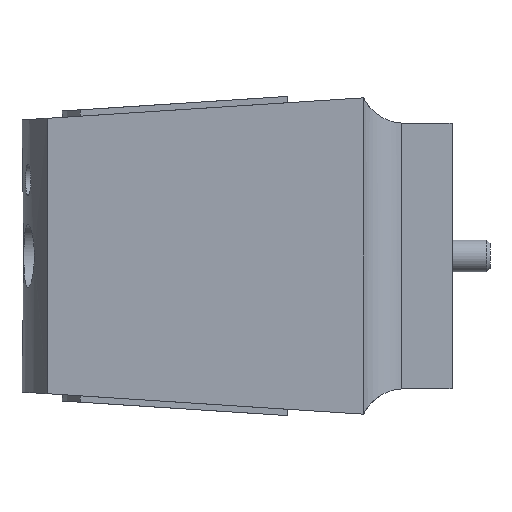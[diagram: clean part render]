
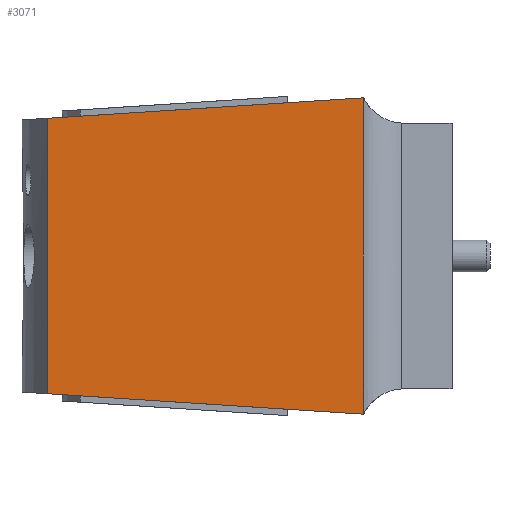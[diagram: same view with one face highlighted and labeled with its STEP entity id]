
A CAD part, left-side view. The second image highlights one B-rep face of the part: STEP entity #3071.
In plain terms, the highlighted planar face has unit normal (-0.999, 0.04, 0).
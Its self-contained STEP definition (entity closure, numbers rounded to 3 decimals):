
#2856=CARTESIAN_POINT('',(-26.0,14.,-25.0));
#2857=VERTEX_POINT('',#2856);
#2900=CARTESIAN_POINT('',(-26.0,14.,25.0));
#2901=VERTEX_POINT('',#2900);
#2970=CARTESIAN_POINT('',(-26.0,14.,25.0));
#2971=DIRECTION('',(0.0,0.0,-1.0));
#2972=VECTOR('',#2971,50.0);
#2973=LINE('',#2970,#2972);
#2974=EDGE_CURVE('',#2901,#2857,#2973,.T.);
#2984=CARTESIAN_POINT('',(-24.,64.0,21.759));
#2985=VERTEX_POINT('',#2984);
#2995=CARTESIAN_POINT('',(-26.,14.,25.0));
#2996=DIRECTION('',(0.04,0.997,-0.065));
#2997=VECTOR('',#2996,50.145);
#2998=LINE('',#2995,#2997);
#2999=EDGE_CURVE('',#2901,#2985,#2998,.T.);
#3024=CARTESIAN_POINT('',(-24.,64.,-21.759));
#3025=VERTEX_POINT('',#3024);
#3040=CARTESIAN_POINT('',(-24.,64.,-21.759));
#3041=DIRECTION('',(-0.04,-0.997,-0.065));
#3042=VECTOR('',#3041,50.145);
#3043=LINE('',#3040,#3042);
#3044=EDGE_CURVE('',#3025,#2857,#3043,.T.);
#3055=CARTESIAN_POINT('',(-26.0,14.,0.0));
#3056=DIRECTION('',(-0.999,0.04,0.0));
#3057=DIRECTION('',(0.0,0.0,1.0));
#3058=AXIS2_PLACEMENT_3D('',#3055,#3056,#3057);
#3059=PLANE('',#3058);
#3060=ORIENTED_EDGE('',*,*,#2999,.T.);
#3061=CARTESIAN_POINT('',(-24.,64.0,21.759));
#3062=DIRECTION('',(0.0,0.0,-1.0));
#3063=VECTOR('',#3062,43.519);
#3064=LINE('',#3061,#3063);
#3065=EDGE_CURVE('',#2985,#3025,#3064,.T.);
#3066=ORIENTED_EDGE('',*,*,#3065,.T.);
#3067=ORIENTED_EDGE('',*,*,#3044,.T.);
#3068=ORIENTED_EDGE('',*,*,#2974,.F.);
#3069=EDGE_LOOP('',(#3060,#3066,#3067,#3068));
#3070=FACE_OUTER_BOUND('',#3069,.T.);
#3071=ADVANCED_FACE('',(#3070),#3059,.T.);
